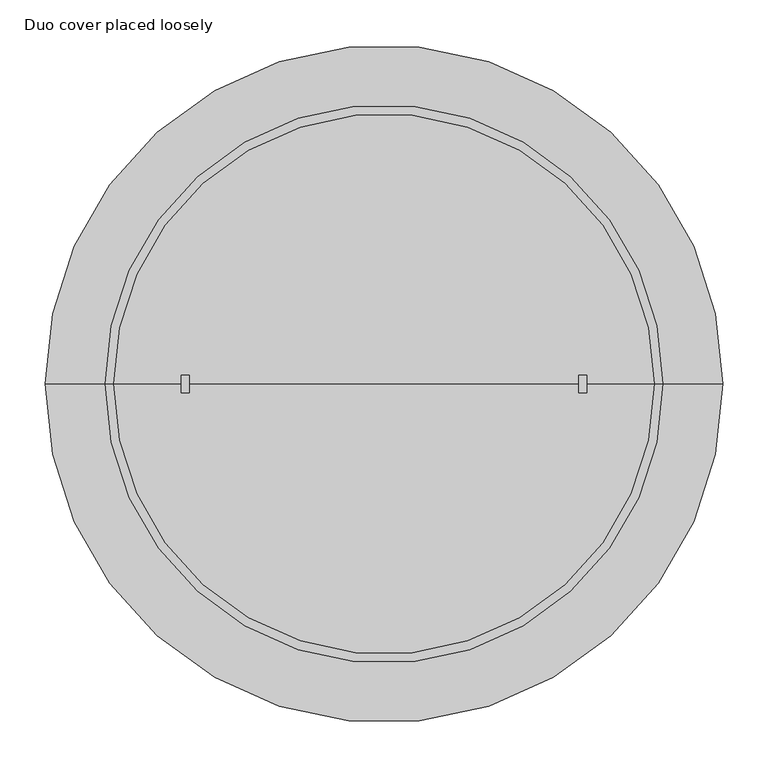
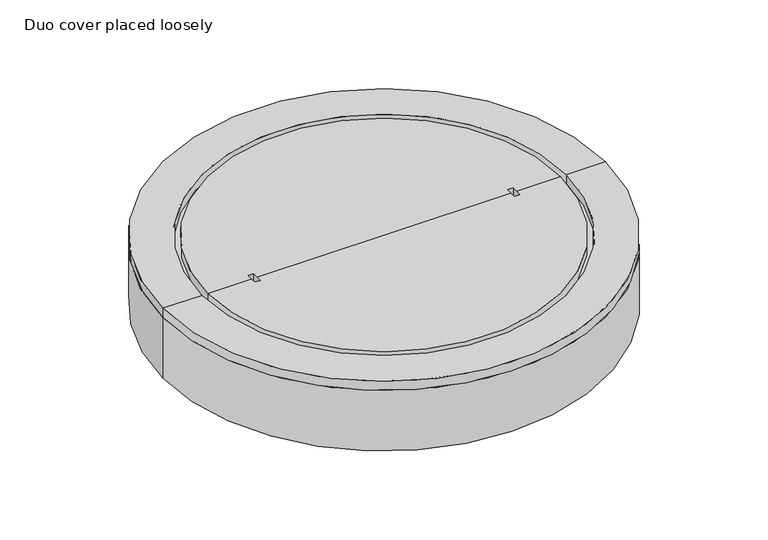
"""IFC4 building model written with IfcOpenShell, lengths in millimetres: unitary equipment geometry, ME_PE_UN_Mulimax loadclass A15_ACO : Duo cover placed loosely."""

from ifc_helpers import new_model, si_unit, frame, origin, place, context, project, spatial, polyline, circle_curve, source, transform, mapped, element, save
from ifc_brep_helpers import plane_surface, cylinder_surface, revolved_surface, advanced_brep


def duo_cover_placed_loosely_2c246ea7(model_context):
    return source(origin(), model_context, "Body", "AdvancedBrep", [
        advanced_brep(
        [(375.0, 0.0, -16.5155912), (-375.0, 0.0, -16.5155912), (-299.0, 0.0, -16.5155912), (299.0, 0.0, -16.5155912), (375.0, 0.0, -125.0), (-375.0, 0.0, -125.0), (0.0, 0.0, -125.0), (299.0, 0.0, 0.0), (-299.0, 0.0, 0.0), (-224.9613525, 0.0, 0.0), (-224.9613525, 10.0, 0.0), (-214.9613525, 10.0, 0.0), (-214.9613525, 0.0, 0.0), (0.0, 0.0, 0.0), (214.9613525, 0.0, 0.0), (214.9613525, 10.0, 0.0), (224.9613525, 10.0, 0.0), (224.9613525, 0.0, 0.0), (224.9613525, -10.0, 0.0), (214.9613525, -10.0, 0.0), (-214.9613525, -10.0, 0.0), (-224.9613525, -10.0, 0.0), (-214.9613525, 10.0, -16.5155912), (-224.9613525, 10.0, -16.5155912), (-224.9613525, -10.0, -16.5155912), (-214.9613525, -10.0, -16.5155912), (214.9613525, 10.0, -16.5155912), (214.9613525, -10.0, -16.5155912), (224.9613525, -10.0, -16.5155912), (224.9613525, 10.0, -16.5155912)],
        [
            (0, 1, circle_curve(frame((0.0, 0.0, -16.5155912), z_axis=(0.0, 0.0, 1.0), x_axis=(-1.0, 0.0, 0.0)), 375.0)),
            (1, 2),
            (2, 3, circle_curve(frame((0.0, 0.0, -16.5155912), z_axis=(0.0, 0.0, -1.0), x_axis=(-1.0, 0.0, 0.0)), 299.0)),
            (3, 0),
            (1, 0, circle_curve(frame((0.0, 0.0, -16.5155912), z_axis=(0.0, 0.0, 1.0), x_axis=(-1.0, 0.0, 0.0)), 375.0)),
            (3, 2, circle_curve(frame((0.0, 0.0, -16.5155912), z_axis=(0.0, 0.0, -1.0), x_axis=(-1.0, 0.0, 0.0)), 299.0)),
            (0, 4),
            (4, 5, circle_curve(frame((0.0, 0.0, -125.0), z_axis=(0.0, 0.0, 1.0), x_axis=(-1.0, 0.0, 0.0)), 375.0)),
            (5, 1),
            (5, 4, circle_curve(frame((0.0, 0.0, -125.0), z_axis=(0.0, 0.0, 1.0), x_axis=(-1.0, 0.0, 0.0)), 375.0)),
            (4, 6),
            (6, 5),
            (7, 8, circle_curve(frame((0.0, 0.0, 0.0), z_axis=(0.0, 0.0, 1.0), x_axis=(-1.0, 0.0, 0.0)), 299.0)),
            (8, 9),
            (9, 10),
            (10, 11),
            (11, 12),
            (12, 13),
            (13, 14),
            (14, 15),
            (15, 16),
            (16, 17),
            (17, 7),
            (8, 7, circle_curve(frame((0.0, 0.0, 0.0), z_axis=(0.0, 0.0, 1.0), x_axis=(-1.0, 0.0, 0.0)), 299.0)),
            (17, 18),
            (18, 19),
            (19, 14),
            (12, 20),
            (20, 21),
            (21, 9),
            (2, 8),
            (7, 3),
            (22, 23),
            (23, 24),
            (24, 25),
            (25, 22),
            (26, 27),
            (27, 28),
            (28, 29),
            (29, 26),
            (23, 10),
            (21, 24),
            (20, 25),
            (11, 22),
            (29, 16),
            (15, 26),
            (19, 27),
            (18, 28),
        ],
        [
            plane_surface(frame((0.0, 0.0, -16.5155912), z_axis=(0.0, 0.0, 1.0), x_axis=(-1.0, 0.0, 0.0))),
            cylinder_surface(frame((0.0, 0.0, 108.4844088), z_axis=(0.0, 0.0, -1.0), x_axis=(-1.0, 0.0, 0.0)), 375.0),
            plane_surface(frame((0.0, 0.0, -125.0), z_axis=(0.0, 0.0, -1.0), x_axis=(-1.0, 0.0, 0.0))),
            plane_surface(frame((0.0, 0.0, 0.0), z_axis=(0.0, 0.0, 1.0), x_axis=(-1.0, 0.0, 0.0))),
            cylinder_surface(frame((0.0, 0.0, 108.4844088), z_axis=(0.0, 0.0, -1.0), x_axis=(-1.0, 0.0, 0.0)), 299.0),
            plane_surface(frame((-224.9613525, 10.0, -16.5155912), z_axis=(0.0, 0.0, 1.0), x_axis=(1.0, 0.0, 0.0))),
            plane_surface(frame((-224.9613525, 10.0, 0.0), z_axis=(1.0, 0.0, 0.0), x_axis=(0.0, 0.0, -1.0))),
            plane_surface(frame((-224.9613525, -10.0, 0.0), z_axis=(0.0, 1.0, 0.0), x_axis=(0.0, 0.0, -1.0))),
            plane_surface(frame((-214.9613525, -10.0, 0.0), z_axis=(-1.0, 0.0, 0.0), x_axis=(0.0, 0.0, -1.0))),
            plane_surface(frame((-214.9613525, 10.0, 0.0), z_axis=(0.0, -1.0, 0.0), x_axis=(0.0, 0.0, -1.0))),
            plane_surface(frame((224.9613525, 10.0, 0.0), z_axis=(0.0, -1.0, 0.0), x_axis=(0.0, 0.0, -1.0))),
            plane_surface(frame((214.9613525, 10.0, 0.0), z_axis=(1.0, 0.0, 0.0), x_axis=(0.0, 0.0, -1.0))),
            plane_surface(frame((214.9613525, -10.0, 0.0), z_axis=(0.0, 1.0, 0.0), x_axis=(0.0, 0.0, -1.0))),
            plane_surface(frame((224.9613525, -10.0, 0.0), z_axis=(-1.0, 0.0, 0.0), x_axis=(0.0, 0.0, -1.0))),
        ],
        [
            (0, [[1, 2, 3, 4]]),
            (0, [[-2, 5, -4, 6]]),
            (1, [[-1, 7, 8, 9]]),
            (1, [[-5, -9, 10, -7]]),
            (2, [[-8, 11, 12]]),
            (2, [[-10, -12, -11]]),
            (3, [[13, 14, 15, 16, 17, 18, 19, 20, 21, 22, 23]]),
            (3, [[24, -23, 25, 26, 27, -19, -18, 28, 29, 30, -14]]),
            (4, [[-3, 31, -13, 32]]),
            (4, [[-6, -32, -24, -31]]),
            (5, [[33, 34, 35, 36]]),
            (5, [[37, 38, 39, 40]]),
            (6, [[-34, 41, -15, -30, 42]]),
            (7, [[-35, -42, -29, 43]]),
            (8, [[-36, -43, -28, -17, 44]]),
            (9, [[-33, -44, -16, -41]]),
            (10, [[-40, 45, -21, 46]]),
            (11, [[-37, -46, -20, -27, 47]]),
            (12, [[-38, -47, -26, 48]]),
            (13, [[-39, -48, -25, -22, -45]]),
        ],
    ),
        advanced_brep(
        [(375.0, 0.0, 0.0), (-375.0, 0.0, 0.0), (-309.0, 0.0, 0.0), (309.0, 0.0, 0.0), (375.0, 0.0, -16.5155912), (-375.0, 0.0, -16.5155912), (309.0, 0.0, -16.5155912), (-309.0, 0.0, -16.5155912)],
        [
            (0, 1, circle_curve(frame((0.0, 0.0, 0.0), z_axis=(0.0, 0.0, 1.0), x_axis=(-1.0, 0.0, 0.0)), 375.0)),
            (1, 2),
            (2, 3, circle_curve(frame((0.0, 0.0, 0.0), z_axis=(0.0, 0.0, -1.0), x_axis=(-1.0, 0.0, 0.0)), 309.0)),
            (3, 0),
            (1, 0, circle_curve(frame((0.0, 0.0, 0.0), z_axis=(0.0, 0.0, 1.0), x_axis=(-1.0, 0.0, 0.0)), 375.0)),
            (3, 2, circle_curve(frame((0.0, 0.0, 0.0), z_axis=(0.0, 0.0, -1.0), x_axis=(-1.0, 0.0, 0.0)), 309.0)),
            (4, 5, circle_curve(frame((0.0, 0.0, -16.5155912), z_axis=(0.0, 0.0, 1.0), x_axis=(-1.0, 0.0, 0.0)), 375.0)),
            (5, 1),
            (0, 4),
            (5, 4, circle_curve(frame((0.0, 0.0, -16.5155912), z_axis=(0.0, 0.0, 1.0), x_axis=(-1.0, 0.0, 0.0)), 375.0)),
            (6, 7, circle_curve(frame((0.0, 0.0, -16.5155912), z_axis=(0.0, 0.0, 1.0), x_axis=(-1.0, 0.0, 0.0)), 309.0)),
            (7, 5),
            (4, 6),
            (7, 6, circle_curve(frame((0.0, 0.0, -16.5155912), z_axis=(0.0, 0.0, 1.0), x_axis=(-1.0, 0.0, 0.0)), 309.0)),
            (2, 7),
            (6, 3),
        ],
        [
            plane_surface(frame((0.0, 0.0, 0.0), z_axis=(0.0, 0.0, 1.0), x_axis=(-1.0, 0.0, 0.0))),
            cylinder_surface(frame((0.0, 0.0, 115.0), z_axis=(0.0, 0.0, -1.0), x_axis=(-1.0, 0.0, 0.0)), 375.0),
            plane_surface(frame((0.0, 0.0, -16.5155912), z_axis=(0.0, 0.0, -1.0), x_axis=(-1.0, 0.0, 0.0))),
            revolved_surface(polyline([(-309.0, 0.0, -16.51559119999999), (-309.0, 0.0, 0.0)]), (0.0, 0.0, 115.0), (0.0, 0.0, -1.0)),
        ],
        [
            (0, [[1, 2, 3, 4]]),
            (0, [[5, -4, 6, -2]]),
            (1, [[7, 8, -1, 9]]),
            (1, [[10, -9, -5, -8]]),
            (2, [[11, 12, -7, 13]]),
            (2, [[14, -13, -10, -12]]),
            (3, [[-3, 15, -11, 16]]),
            (3, [[-6, -16, -14, -15]]),
        ],
    ),
    ])


if __name__ == "__main__":
    model = new_model("IFC4")
    model_context = context("Model", 3, world=origin())
    ifc_project = project(units=[si_unit("LENGTHUNIT", "METRE", prefix="MILLI")], contexts=[model_context])
    site = spatial("IfcSite", under=ifc_project)
    building = spatial("IfcBuilding", under=site)
    placement = place(None, origin())
    duo_cover_placed_loosely_shape = duo_cover_placed_loosely_2c246ea7(model_context)
    element("IfcUnitaryEquipment", 1, ObjectType="ME_PE_UN_Mulimax loadclass A15_ACO : Duo cover placed loosely", at=placement, inside=building, context=model_context, shape_type="MappedRepresentation", body=[
        mapped(duo_cover_placed_loosely_shape, transform((0.0, 0.0, 0.0), x_axis=(1.0, 0.0, 0.0), y_axis=(0.0, 1.0, 0.0), z_axis=(0.0, 0.0, 1.0))),
    ])
    save(model, "model.ifc")
